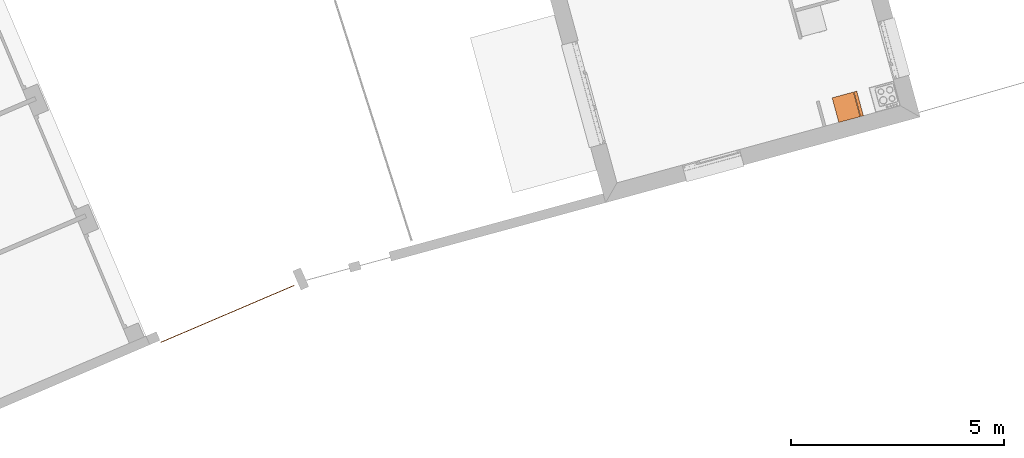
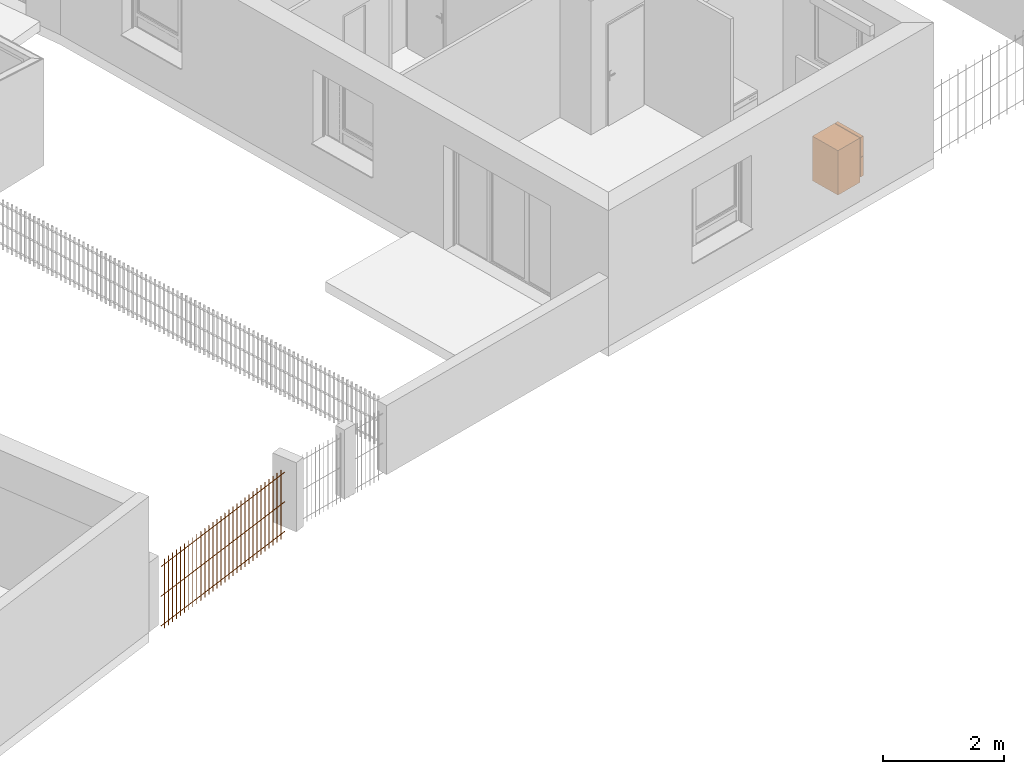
# One storey, part 178 of 195: 2 proxies.
"""IFC2X3 building model written with IfcOpenShell, lengths in metres."""

from ifc_helpers import new_model, entity, si_unit, converted_unit, derived_unit, money_unit, direction, frame, origin_with_axes, place, context, subcontext, project, spatial, open_shell, faceted_brep, surface_model, source, transform, mapped, type_object, element, save


model = new_model("IFC2X3")

# Units and contexts
model_context = context("Model", 3, precision=1e-05, world=origin_with_axes(), true_north=direction((0.0, 1.0)))
body_context = subcontext(model_context, "Body", "Model", "MODEL_VIEW")
ifc_project = project(units=[si_unit("LENGTHUNIT", "METRE"), si_unit("AREAUNIT", "SQUARE_METRE"), si_unit("VOLUMEUNIT", "CUBIC_METRE"), converted_unit("PLANEANGLEUNIT", "DEGREE", entity("IfcPlaneAngleMeasure", 0.0174532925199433), si_unit("PLANEANGLEUNIT", "RADIAN"), dimensions=[0, 0, 0, 0, 0, 0, 0]), money_unit("CHF"), converted_unit("TIMEUNIT", "Year", entity("IfcTimeMeasure", 31557600.0), si_unit("TIMEUNIT", "SECOND"), dimensions=[0, 0, 1, 0, 0, 0, 0]), si_unit("MASSUNIT", "GRAM", prefix="KILO"), si_unit("THERMODYNAMICTEMPERATUREUNIT", "DEGREE_CELSIUS"), si_unit("LUMINOUSINTENSITYUNIT", "LUMEN"), si_unit("ENERGYUNIT", "JOULE", prefix="MEGA"), derived_unit("THERMALCONDUCTANCEUNIT", [(si_unit("POWERUNIT", "WATT"), 1), (si_unit("LENGTHUNIT", "METRE"), -1), (si_unit("THERMODYNAMICTEMPERATUREUNIT", "KELVIN"), -1)]), derived_unit("SPECIFICHEATCAPACITYUNIT", [(si_unit("ENERGYUNIT", "JOULE"), 1), (si_unit("MASSUNIT", "GRAM", prefix="KILO"), -1), (si_unit("THERMODYNAMICTEMPERATUREUNIT", "KELVIN"), -1)]), derived_unit("MASSDENSITYUNIT", [(si_unit("MASSUNIT", "GRAM", prefix="KILO"), 1), (si_unit("VOLUMEUNIT", "CUBIC_METRE"), -1)])], contexts=[model_context])

# Site, building, storey
site_placement = place(None, origin_with_axes())
site = spatial("IfcSite", under=ifc_project, at=site_placement, Name="Site", CompositionType="ELEMENT")
building_placement = place(site_placement, origin_with_axes())
building = spatial("IfcBuilding", under=site, at=building_placement, Name="Bâtiment", CompositionType="ELEMENT")
storey_placement = place(building_placement, origin_with_axes())
storey = spatial("IfcBuildingStorey", under=building, at=storey_placement, Name="rdc", CompositionType="ELEMENT", Elevation=0.0)

# Proxies
building_element_proxy_type_1 = type_object("IfcBuildingElementProxyType", Name="Grille anti-effraction", PredefinedType="NOTDEFINED")
shared_shape_1 = source(origin_with_axes(), body_context, "Body", "Brep", [
    faceted_brep([(1.707795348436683, -0.01, 0.1), (1.707795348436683, 0.0, 0.09000000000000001), (1.707795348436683, 0.01, 0.1), (1.707795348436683, 0.0, 0.11), (-1.707795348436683, -0.01, 0.1000000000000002), (-1.707795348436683, 0.0, 0.09000000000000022), (-1.707795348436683, 0.01, 0.1000000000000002), (-1.707795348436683, 0.0, 0.1100000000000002)], [[[0, 1, 2, 3]], [[0, 4, 5, 1]], [[1, 5, 6, 2]], [[2, 6, 7, 3]], [[3, 7, 4, 0]], [[4, 7, 6, 5]]]),
    faceted_brep([(1.707795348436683, -0.01, 0.7), (1.707795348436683, 0.0, 0.69), (1.707795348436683, 0.01, 0.7), (1.707795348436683, 0.0, 0.71), (-1.707795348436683, -0.01, 0.7000000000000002), (-1.707795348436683, 0.0, 0.6900000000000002), (-1.707795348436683, 0.01, 0.7000000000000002), (-1.707795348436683, 0.0, 0.7100000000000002)], [[[0, 1, 2, 3]], [[0, 4, 5, 1]], [[1, 5, 6, 2]], [[2, 6, 7, 3]], [[3, 7, 4, 0]], [[4, 7, 6, 5]]]),
    faceted_brep([(1.707795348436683, -0.01, 1.3), (1.707795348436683, 0.0, 1.29), (1.707795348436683, 0.01, 1.3), (1.707795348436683, 0.0, 1.31), (-1.707795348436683, -0.01, 1.3), (-1.707795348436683, 0.0, 1.29), (-1.707795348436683, 0.01, 1.3), (-1.707795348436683, 0.0, 1.31)], [[[0, 1, 2, 3]], [[0, 4, 5, 1]], [[1, 5, 6, 2]], [[2, 6, 7, 3]], [[3, 7, 4, 0]], [[4, 7, 6, 5]]]),
    faceted_brep([(1.607795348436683, -0.01, 0.0), (1.597795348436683, 0.0, 0.0), (1.607795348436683, 0.01, 0.0), (1.617795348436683, 0.0, 0.0), (1.607795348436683, -0.01, 1.4), (1.597795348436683, 0.0, 1.4), (1.607795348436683, 0.01, 1.4), (1.617795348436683, 0.0, 1.4)], [[[0, 1, 2, 3]], [[0, 4, 5, 1]], [[1, 5, 6, 2]], [[2, 6, 7, 3]], [[3, 7, 4, 0]], [[4, 7, 6, 5]]]),
    faceted_brep([(1.496912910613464, -0.01, 0.0), (1.486912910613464, 0.0, 0.0), (1.496912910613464, 0.01, 0.0), (1.506912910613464, 0.0, 0.0), (1.496912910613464, -0.01, 1.4), (1.486912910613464, 0.0, 1.4), (1.496912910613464, 0.01, 1.4), (1.506912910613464, 0.0, 1.4)], [[[0, 1, 2, 3]], [[0, 4, 5, 1]], [[1, 5, 6, 2]], [[2, 6, 7, 3]], [[3, 7, 4, 0]], [[4, 7, 6, 5]]]),
    faceted_brep([(1.386030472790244, -0.01, 0.0), (1.376030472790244, 0.0, 0.0), (1.386030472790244, 0.01, 0.0), (1.396030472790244, 0.0, 0.0), (1.386030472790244, -0.01, 1.4), (1.376030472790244, 0.0, 1.4), (1.386030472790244, 0.01, 1.4), (1.396030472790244, 0.0, 1.4)], [[[0, 1, 2, 3]], [[0, 4, 5, 1]], [[1, 5, 6, 2]], [[2, 6, 7, 3]], [[3, 7, 4, 0]], [[4, 7, 6, 5]]]),
    faceted_brep([(1.275148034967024, -0.01, 0.0), (1.265148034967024, 0.0, 0.0), (1.275148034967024, 0.01, 0.0), (1.285148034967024, 0.0, 0.0), (1.275148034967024, -0.01, 1.4), (1.265148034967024, 0.0, 1.4), (1.275148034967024, 0.01, 1.4), (1.285148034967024, 0.0, 1.4)], [[[0, 1, 2, 3]], [[0, 4, 5, 1]], [[1, 5, 6, 2]], [[2, 6, 7, 3]], [[3, 7, 4, 0]], [[4, 7, 6, 5]]]),
    faceted_brep([(1.164265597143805, -0.01, 0.0), (1.154265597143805, 0.0, 0.0), (1.164265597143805, 0.01, 0.0), (1.174265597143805, 0.0, 0.0), (1.164265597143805, -0.01, 1.4), (1.154265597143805, 0.0, 1.4), (1.164265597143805, 0.01, 1.4), (1.174265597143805, 0.0, 1.4)], [[[0, 1, 2, 3]], [[0, 4, 5, 1]], [[1, 5, 6, 2]], [[2, 6, 7, 3]], [[3, 7, 4, 0]], [[4, 7, 6, 5]]]),
    faceted_brep([(1.053383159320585, -0.01, 0.0), (1.043383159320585, 0.0, 0.0), (1.053383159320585, 0.01, 0.0), (1.063383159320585, 0.0, 0.0), (1.053383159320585, -0.01, 1.4), (1.043383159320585, 0.0, 1.4), (1.053383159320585, 0.01, 1.4), (1.063383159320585, 0.0, 1.4)], [[[0, 1, 2, 3]], [[0, 4, 5, 1]], [[1, 5, 6, 2]], [[2, 6, 7, 3]], [[3, 7, 4, 0]], [[4, 7, 6, 5]]]),
    faceted_brep([(0.9425007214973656, -0.01, 0.0), (0.9325007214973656, 0.0, 0.0), (0.9425007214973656, 0.01, 0.0), (0.9525007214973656, 0.0, 0.0), (0.9425007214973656, -0.01, 1.4), (0.9325007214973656, 0.0, 1.4), (0.9425007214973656, 0.01, 1.4), (0.9525007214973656, 0.0, 1.4)], [[[0, 1, 2, 3]], [[0, 4, 5, 1]], [[1, 5, 6, 2]], [[2, 6, 7, 3]], [[3, 7, 4, 0]], [[4, 7, 6, 5]]]),
    faceted_brep([(0.8316182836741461, -0.01, 0.0), (0.8216182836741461, 0.0, 0.0), (0.8316182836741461, 0.01, 0.0), (0.8416182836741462, 0.0, 0.0), (0.8316182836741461, -0.01, 1.4), (0.8216182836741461, 0.0, 1.4), (0.8316182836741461, 0.01, 1.4), (0.8416182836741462, 0.0, 1.4)], [[[0, 1, 2, 3]], [[0, 4, 5, 1]], [[1, 5, 6, 2]], [[2, 6, 7, 3]], [[3, 7, 4, 0]], [[4, 7, 6, 5]]]),
    faceted_brep([(0.7207358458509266, -0.01, 0.0), (0.7107358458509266, 0.0, 0.0), (0.7207358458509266, 0.01, 0.0), (0.7307358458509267, 0.0, 0.0), (0.7207358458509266, -0.01, 1.4), (0.7107358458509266, 0.0, 1.4), (0.7207358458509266, 0.01, 1.4), (0.7307358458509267, 0.0, 1.4)], [[[0, 1, 2, 3]], [[0, 4, 5, 1]], [[1, 5, 6, 2]], [[2, 6, 7, 3]], [[3, 7, 4, 0]], [[4, 7, 6, 5]]]),
    faceted_brep([(0.6098534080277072, -0.01, 0.0), (0.5998534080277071, 0.0, 0.0), (0.6098534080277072, 0.01, 0.0), (0.6198534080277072, 0.0, 0.0), (0.6098534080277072, -0.01, 1.4), (0.5998534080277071, 0.0, 1.4), (0.6098534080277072, 0.01, 1.4), (0.6198534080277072, 0.0, 1.4)], [[[0, 1, 2, 3]], [[0, 4, 5, 1]], [[1, 5, 6, 2]], [[2, 6, 7, 3]], [[3, 7, 4, 0]], [[4, 7, 6, 5]]]),
    faceted_brep([(0.4989709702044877, -0.01, 0.0), (0.4889709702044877, 0.0, 0.0), (0.4989709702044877, 0.01, 0.0), (0.5089709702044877, 0.0, 0.0), (0.4989709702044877, -0.01, 1.4), (0.4889709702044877, 0.0, 1.4), (0.4989709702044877, 0.01, 1.4), (0.5089709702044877, 0.0, 1.4)], [[[0, 1, 2, 3]], [[0, 4, 5, 1]], [[1, 5, 6, 2]], [[2, 6, 7, 3]], [[3, 7, 4, 0]], [[4, 7, 6, 5]]]),
    faceted_brep([(0.3880885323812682, -0.01, 0.0), (0.3780885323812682, 0.0, 0.0), (0.3880885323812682, 0.01, 0.0), (0.3980885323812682, 0.0, 0.0), (0.3880885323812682, -0.01, 1.4), (0.3780885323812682, 0.0, 1.4), (0.3880885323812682, 0.01, 1.4), (0.3980885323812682, 0.0, 1.4)], [[[0, 1, 2, 3]], [[0, 4, 5, 1]], [[1, 5, 6, 2]], [[2, 6, 7, 3]], [[3, 7, 4, 0]], [[4, 7, 6, 5]]]),
    faceted_brep([(0.2772060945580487, -0.01, 0.0), (0.2672060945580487, 0.0, 0.0), (0.2772060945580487, 0.01, 0.0), (0.2872060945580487, 0.0, 0.0), (0.2772060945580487, -0.01, 1.4), (0.2672060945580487, 0.0, 1.4), (0.2772060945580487, 0.01, 1.4), (0.2872060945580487, 0.0, 1.4)], [[[0, 1, 2, 3]], [[0, 4, 5, 1]], [[1, 5, 6, 2]], [[2, 6, 7, 3]], [[3, 7, 4, 0]], [[4, 7, 6, 5]]]),
    faceted_brep([(0.1663236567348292, -0.01, 0.0), (0.1563236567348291, 0.0, 0.0), (0.1663236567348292, 0.01, 0.0), (0.1763236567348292, 0.0, 0.0), (0.1663236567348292, -0.01, 1.4), (0.1563236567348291, 0.0, 1.4), (0.1663236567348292, 0.01, 1.4), (0.1763236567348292, 0.0, 1.4)], [[[0, 1, 2, 3]], [[0, 4, 5, 1]], [[1, 5, 6, 2]], [[2, 6, 7, 3]], [[3, 7, 4, 0]], [[4, 7, 6, 5]]]),
    faceted_brep([(0.05544121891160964, -0.01, 0.0), (0.04544121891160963, 0.0, 0.0), (0.05544121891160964, 0.01, 0.0), (0.06544121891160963, 0.0, 0.0), (0.05544121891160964, -0.01, 1.4), (0.04544121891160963, 0.0, 1.4), (0.05544121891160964, 0.01, 1.4), (0.06544121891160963, 0.0, 1.4)], [[[0, 1, 2, 3]], [[0, 4, 5, 1]], [[1, 5, 6, 2]], [[2, 6, 7, 3]], [[3, 7, 4, 0]], [[4, 7, 6, 5]]]),
    faceted_brep([(-0.05544121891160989, -0.01, 0.0), (-0.06544121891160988, 0.0, 0.0), (-0.05544121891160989, 0.01, 0.0), (-0.04544121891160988, 0.0, 0.0), (-0.05544121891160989, -0.01, 1.4), (-0.06544121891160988, 0.0, 1.4), (-0.05544121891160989, 0.01, 1.4), (-0.04544121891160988, 0.0, 1.4)], [[[0, 1, 2, 3]], [[0, 4, 5, 1]], [[1, 5, 6, 2]], [[2, 6, 7, 3]], [[3, 7, 4, 0]], [[4, 7, 6, 5]]]),
    faceted_brep([(-0.1663236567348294, -0.01, 0.0), (-0.1763236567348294, 0.0, 0.0), (-0.1663236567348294, 0.01, 0.0), (-0.1563236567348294, 0.0, 0.0), (-0.1663236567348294, -0.01, 1.4), (-0.1763236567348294, 0.0, 1.4), (-0.1663236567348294, 0.01, 1.4), (-0.1563236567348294, 0.0, 1.4)], [[[0, 1, 2, 3]], [[0, 4, 5, 1]], [[1, 5, 6, 2]], [[2, 6, 7, 3]], [[3, 7, 4, 0]], [[4, 7, 6, 5]]]),
    faceted_brep([(-0.2772060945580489, -0.01, 0.0), (-0.2872060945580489, 0.0, 0.0), (-0.2772060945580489, 0.01, 0.0), (-0.2672060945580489, 0.0, 0.0), (-0.2772060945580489, -0.01, 1.4), (-0.2872060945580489, 0.0, 1.4), (-0.2772060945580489, 0.01, 1.4), (-0.2672060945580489, 0.0, 1.4)], [[[0, 1, 2, 3]], [[0, 4, 5, 1]], [[1, 5, 6, 2]], [[2, 6, 7, 3]], [[3, 7, 4, 0]], [[4, 7, 6, 5]]]),
    faceted_brep([(-0.3880885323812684, -0.01, 0.0), (-0.3980885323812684, 0.0, 0.0), (-0.3880885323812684, 0.01, 0.0), (-0.3780885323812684, 0.0, 0.0), (-0.3880885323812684, -0.01, 1.4), (-0.3980885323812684, 0.0, 1.4), (-0.3880885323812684, 0.01, 1.4), (-0.3780885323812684, 0.0, 1.4)], [[[0, 1, 2, 3]], [[0, 4, 5, 1]], [[1, 5, 6, 2]], [[2, 6, 7, 3]], [[3, 7, 4, 0]], [[4, 7, 6, 5]]]),
    faceted_brep([(-0.4989709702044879, -0.01, 0.0), (-0.5089709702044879, 0.0, 0.0), (-0.4989709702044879, 0.01, 0.0), (-0.4889709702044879, 0.0, 0.0), (-0.4989709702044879, -0.01, 1.4), (-0.5089709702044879, 0.0, 1.4), (-0.4989709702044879, 0.01, 1.4), (-0.4889709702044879, 0.0, 1.4)], [[[0, 1, 2, 3]], [[0, 4, 5, 1]], [[1, 5, 6, 2]], [[2, 6, 7, 3]], [[3, 7, 4, 0]], [[4, 7, 6, 5]]]),
    faceted_brep([(-0.6098534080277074, -0.01, 0.0), (-0.6198534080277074, 0.0, 0.0), (-0.6098534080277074, 0.01, 0.0), (-0.5998534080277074, 0.0, 0.0), (-0.6098534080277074, -0.01, 1.4), (-0.6198534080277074, 0.0, 1.4), (-0.6098534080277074, 0.01, 1.4), (-0.5998534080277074, 0.0, 1.4)], [[[0, 1, 2, 3]], [[0, 4, 5, 1]], [[1, 5, 6, 2]], [[2, 6, 7, 3]], [[3, 7, 4, 0]], [[4, 7, 6, 5]]]),
    faceted_brep([(-0.7207358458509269, -0.01, 0.0), (-0.7307358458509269, 0.0, 0.0), (-0.7207358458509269, 0.01, 0.0), (-0.7107358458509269, 0.0, 0.0), (-0.7207358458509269, -0.01, 1.4), (-0.7307358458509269, 0.0, 1.4), (-0.7207358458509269, 0.01, 1.4), (-0.7107358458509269, 0.0, 1.4)], [[[0, 1, 2, 3]], [[0, 4, 5, 1]], [[1, 5, 6, 2]], [[2, 6, 7, 3]], [[3, 7, 4, 0]], [[4, 7, 6, 5]]]),
    faceted_brep([(-0.8316182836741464, -0.01, 0.0), (-0.8416182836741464, 0.0, 0.0), (-0.8316182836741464, 0.01, 0.0), (-0.8216182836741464, 0.0, 0.0), (-0.8316182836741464, -0.01, 1.4), (-0.8416182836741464, 0.0, 1.4), (-0.8316182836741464, 0.01, 1.4), (-0.8216182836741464, 0.0, 1.4)], [[[0, 1, 2, 3]], [[0, 4, 5, 1]], [[1, 5, 6, 2]], [[2, 6, 7, 3]], [[3, 7, 4, 0]], [[4, 7, 6, 5]]]),
    faceted_brep([(-0.9425007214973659, -0.01, 0.0), (-0.9525007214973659, 0.0, 0.0), (-0.9425007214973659, 0.01, 0.0), (-0.9325007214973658, 0.0, 0.0), (-0.9425007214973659, -0.01, 1.4), (-0.9525007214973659, 0.0, 1.4), (-0.9425007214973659, 0.01, 1.4), (-0.9325007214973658, 0.0, 1.4)], [[[0, 1, 2, 3]], [[0, 4, 5, 1]], [[1, 5, 6, 2]], [[2, 6, 7, 3]], [[3, 7, 4, 0]], [[4, 7, 6, 5]]]),
    faceted_brep([(-1.053383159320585, -0.01, 0.0), (-1.063383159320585, 0.0, 0.0), (-1.053383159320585, 0.01, 0.0), (-1.043383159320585, 0.0, 0.0), (-1.053383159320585, -0.01, 1.4), (-1.063383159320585, 0.0, 1.4), (-1.053383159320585, 0.01, 1.4), (-1.043383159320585, 0.0, 1.4)], [[[0, 1, 2, 3]], [[0, 4, 5, 1]], [[1, 5, 6, 2]], [[2, 6, 7, 3]], [[3, 7, 4, 0]], [[4, 7, 6, 5]]]),
    faceted_brep([(-1.164265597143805, -0.01, 0.0), (-1.174265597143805, 0.0, 0.0), (-1.164265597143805, 0.01, 0.0), (-1.154265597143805, 0.0, 0.0), (-1.164265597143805, -0.01, 1.4), (-1.174265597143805, 0.0, 1.4), (-1.164265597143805, 0.01, 1.4), (-1.154265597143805, 0.0, 1.4)], [[[0, 1, 2, 3]], [[0, 4, 5, 1]], [[1, 5, 6, 2]], [[2, 6, 7, 3]], [[3, 7, 4, 0]], [[4, 7, 6, 5]]]),
    faceted_brep([(-1.275148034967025, -0.01, 0.0), (-1.285148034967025, 0.0, 0.0), (-1.275148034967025, 0.01, 0.0), (-1.265148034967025, 0.0, 0.0), (-1.275148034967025, -0.01, 1.4), (-1.285148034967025, 0.0, 1.4), (-1.275148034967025, 0.01, 1.4), (-1.265148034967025, 0.0, 1.4)], [[[0, 1, 2, 3]], [[0, 4, 5, 1]], [[1, 5, 6, 2]], [[2, 6, 7, 3]], [[3, 7, 4, 0]], [[4, 7, 6, 5]]]),
    faceted_brep([(-1.386030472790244, -0.01, 0.0), (-1.396030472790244, 0.0, 0.0), (-1.386030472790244, 0.01, 0.0), (-1.376030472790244, 0.0, 0.0), (-1.386030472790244, -0.01, 1.4), (-1.396030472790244, 0.0, 1.4), (-1.386030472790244, 0.01, 1.4), (-1.376030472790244, 0.0, 1.4)], [[[0, 1, 2, 3]], [[0, 4, 5, 1]], [[1, 5, 6, 2]], [[2, 6, 7, 3]], [[3, 7, 4, 0]], [[4, 7, 6, 5]]]),
    faceted_brep([(-1.496912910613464, -0.01, 0.0), (-1.506912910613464, 0.0, 0.0), (-1.496912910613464, 0.01, 0.0), (-1.486912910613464, 0.0, 0.0), (-1.496912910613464, -0.01, 1.4), (-1.506912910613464, 0.0, 1.4), (-1.496912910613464, 0.01, 1.4), (-1.486912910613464, 0.0, 1.4)], [[[0, 1, 2, 3]], [[0, 4, 5, 1]], [[1, 5, 6, 2]], [[2, 6, 7, 3]], [[3, 7, 4, 0]], [[4, 7, 6, 5]]]),
    faceted_brep([(-1.607795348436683, -0.01, 0.0), (-1.617795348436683, 0.0, 0.0), (-1.607795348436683, 0.01, 0.0), (-1.597795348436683, 0.0, 0.0), (-1.607795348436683, -0.01, 1.4), (-1.617795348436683, 0.0, 1.4), (-1.607795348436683, 0.01, 1.4), (-1.597795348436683, 0.0, 1.4)], [[[0, 1, 2, 3]], [[0, 4, 5, 1]], [[1, 5, 6, 2]], [[2, 6, 7, 3]], [[3, 7, 4, 0]], [[4, 7, 6, 5]]]),
])
proxy_1_placement = place(storey_placement, frame((9580.84639696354, -1062.045152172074, 57.6), z_axis=(0.0, 0.0, 1.0), x_axis=(-0.9196673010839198, -0.3926984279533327, 0.0)))
element("IfcBuildingElementProxy", 1, at=proxy_1_placement, inside=storey, type_object=building_element_proxy_type_1, Name="Obj.-010", context=body_context, shape_type="MappedRepresentation", body=[
    mapped(shared_shape_1, transform((0.0, 0.0, 0.0))),
])
building_element_proxy_type_2 = type_object("IfcBuildingElementProxyType", PredefinedType="NOTDEFINED")
shared_shape_2 = source(origin_with_axes(), body_context, "Body", "SurfaceModel", [
    faceted_brep([(0.0, 0.08, 0.1), (0.6, 0.08, 0.1), (0.6, 0.08, 0.9), (0.0, 0.08, 0.9), (0.0, 0.6, 0.1), (0.6, 0.6, 0.1), (0.6, 0.6, 0.9), (0.0, 0.6, 0.9)], [[[0, 1, 2, 3]], [[0, 4, 5, 1]], [[1, 5, 6, 2]], [[3, 2, 6, 7]], [[4, 0, 3, 7]], [[5, 4, 7, 6]]]),
    faceted_brep([(0.0, 0.08, 0.0), (0.6, 0.08, 0.0), (0.6, 0.08, 0.1), (0.0, 0.08, 0.1), (0.0, 0.6, 0.0), (0.6, 0.6, 0.0), (0.6, 0.6, 0.1), (0.0, 0.6, 0.1)], [[[0, 1, 2, 3]], [[0, 4, 5, 1]], [[1, 5, 6, 2]], [[3, 2, 6, 7]], [[4, 0, 3, 7]], [[5, 4, 7, 6]]]),
    faceted_brep([(0.0, 0.07, 0.1), (0.6, 0.07, 0.1), (0.6, 0.0, 0.1), (0.0, 0.0, 0.1), (0.0, 0.07000000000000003, 0.494), (0.6, 0.07000000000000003, 0.494), (0.6, 0.0, 0.494), (0.0, 0.0, 0.494)], [[[0, 1, 2, 3]], [[0, 4, 5, 1]], [[1, 5, 6, 2]], [[3, 2, 6, 7]], [[4, 0, 3, 7]], [[5, 4, 7, 6]]]),
    faceted_brep([(0.0, 0.07, 0.5), (0.6, 0.07, 0.5), (0.6, 0.0, 0.5), (0.0, 0.0, 0.5), (0.0, 0.07000000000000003, 0.9), (0.6, 0.07000000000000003, 0.9), (0.6, 0.0, 0.9), (0.0, 0.0, 0.9)], [[[0, 1, 2, 3]], [[0, 4, 5, 1]], [[1, 5, 6, 2]], [[3, 2, 6, 7]], [[4, 0, 3, 7]], [[5, 4, 7, 6]]]),
    surface_model("IfcShellBasedSurfaceModel", [(0.6, -0.03, 0.3), (0.6, -0.03, 0.4940000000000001), (0.6, 0.0, 0.4940000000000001), (0.6, 0.0, 0.3)], [open_shell([[[0, 1, 2, 3]]])]),
    surface_model("IfcShellBasedSurfaceModel", [(0.6, -0.03, 0.3), (0.6, -0.03, 0.4940000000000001), (0.57, -0.03, 0.4940000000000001), (0.57, -0.03, 0.3)], [open_shell([[[0, 1, 2, 3]]])]),
    surface_model("IfcShellBasedSurfaceModel", [(0.6, -0.03, 0.5), (0.6, -0.03, 0.7), (0.6, 0.0, 0.7), (0.6, 0.0, 0.5)], [open_shell([[[0, 1, 2, 3]]])]),
    surface_model("IfcShellBasedSurfaceModel", [(0.6, -0.03, 0.5), (0.6, -0.03, 0.7), (0.57, -0.03, 0.7), (0.57, -0.03, 0.5)], [open_shell([[[0, 1, 2, 3]]])]),
])
proxy_2_placement = place(storey_placement, frame((9595.805935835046, -1057.384186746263, 57.7), z_axis=(0.0, 0.0, 1.0), x_axis=(-0.2626687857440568, 0.964886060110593, 0.0)))
element("IfcBuildingElementProxy", 2, at=proxy_2_placement, inside=storey, type_object=building_element_proxy_type_2, Name="Obj.-019", context=body_context, shape_type="MappedRepresentation", body=[
    mapped(shared_shape_2, transform((0.0, 0.0, 0.0))),
])

save(model, "model.ifc")
